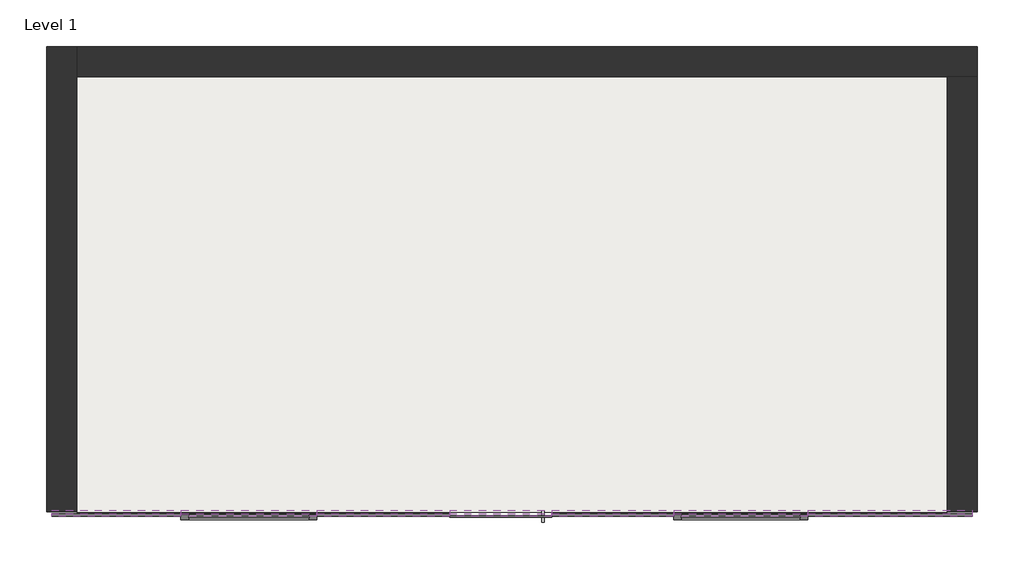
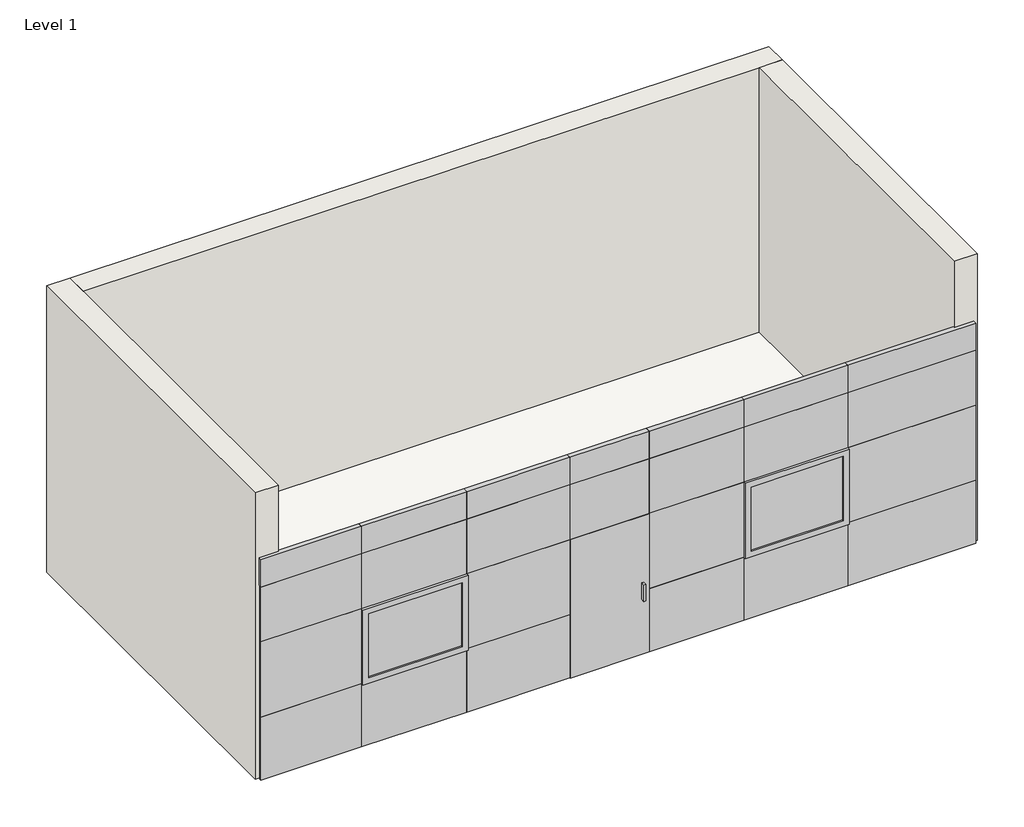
# One storey: 27 plates, 3 walls, 1 slab.
"""IFC4 building model written with IfcOpenShell, lengths in millimetres."""

from ifc_helpers import new_model, si_unit, origin, origin_with_axes, place, context, project, spatial, polyline, outline, extrude, faceted_brep, transform, mapped, element, save
from components import curtain_wall_awning_curtain_wall_awning_ca8f6931, curtain_wall_awning_curtain_wall_awning_aea928d2, curtain_wall_sgl_glass_curtain_wall_sgl_glass_4df18203, system_panel_glazed_8e20a8fe, system_panel_glazed_9b01451f, system_panel_glazed_a04ada38, system_panel_glazed_cc759a12, system_panel_glazed_27d978d9, system_panel_glazed_3545c3f7, system_panel_glazed_9c306b22, system_panel_glazed_d8fdeaf9, system_panel_glazed_aea009c8, system_panel_glazed_d42a5290, system_panel_glazed_7e2c67d3, system_panel_glazed_733af30a, system_panel_glazed_dff3f8f4, system_panel_glazed_28acfef6, system_panel_glazed_4fe77780, system_panel_glazed_9066613e, system_panel_glazed_ff7d22cf, system_panel_solid_cdb384bf, system_panel_solid_65ce7ea8, system_panel_solid_0d61ca61, system_panel_solid_387147e7, system_panel_solid_9766ab31, system_panel_solid_e8f29435, system_panel_solid_6e5f63c4

model = new_model("IFC4")

# Units and contexts
model_context = context("Model", 3, world=origin())
ifc_project = project(units=[si_unit("LENGTHUNIT", "METRE", prefix="MILLI")], contexts=[model_context])

# Site, building, storey
site = spatial("IfcSite", under=ifc_project)
building = spatial("IfcBuilding", under=site)
storey = spatial("IfcBuildingStorey", under=building, Name="Level 1", Elevation=0.0)

# Plates
placement = place(None, origin())
curtain_wall_awning_curtain_wall_awning_shape = curtain_wall_awning_curtain_wall_awning_ca8f6931(model_context)
element("IfcPlate", 1, ObjectType="Curtain Wall Awning : Curtain Wall Awning", at=placement, inside=storey, context=model_context, shape_type="MappedRepresentation", body=[
    mapped(curtain_wall_awning_curtain_wall_awning_shape, transform((-1103.2663854, 909.2024759, 871.864222), x_axis=(-1.0, 0.0, 0.0), y_axis=(0.0, -1.0, 0.0), z_axis=(0.0, 0.0, 1.0))),
])
curtain_wall_awning_curtain_wall_awning_2_shape = curtain_wall_awning_curtain_wall_awning_aea928d2(model_context)
element("IfcPlate", 2, ObjectType="Curtain Wall Awning : Curtain Wall Awning", at=placement, inside=storey, context=model_context, shape_type="MappedRepresentation", body=[
    mapped(curtain_wall_awning_curtain_wall_awning_2_shape, transform((3890.5380353, 909.2024759, 871.864222), x_axis=(-1.0, 0.0, 0.0), y_axis=(0.0, -1.0, 0.0), z_axis=(0.0, 0.0, 1.0))),
])
curtain_wall_sgl_glass_curtain_wall_sgl_glass_shape = curtain_wall_sgl_glass_curtain_wall_sgl_glass_4df18203(model_context)
element("IfcPlate", 3, ObjectType="Curtain Wall Sgl Glass : Curtain Wall Sgl Glass", at=placement, inside=storey, context=model_context, shape_type="MappedRepresentation", body=[
    mapped(curtain_wall_sgl_glass_curtain_wall_sgl_glass_shape, transform((1453.1320001, 909.2024759, 0.0), x_axis=(-1.0, 0.0, 0.0), y_axis=(0.0, -1.0, 0.0), z_axis=(0.0, 0.0, 1.0))),
])
system_panel_glazed_shape = system_panel_glazed_8e20a8fe(model_context)
element("IfcPlate", 4, ObjectType="System Panel : Glazed", at=placement, inside=storey, context=model_context, shape_type="MappedRepresentation", body=[
    mapped(system_panel_glazed_shape, transform((-2448.7996198, 909.2024759, 0.0), x_axis=(-1.0, 0.0, 0.0), y_axis=(0.0, -1.0, 0.0), z_axis=(0.0, 0.0, 1.0))),
])
system_panel_glazed_2_shape = system_panel_glazed_9b01451f(model_context)
element("IfcPlate", 5, ObjectType="System Panel : Glazed", at=placement, inside=storey, context=model_context, shape_type="MappedRepresentation", body=[
    mapped(system_panel_glazed_2_shape, transform((-2448.7996198, 909.2024759, 871.864222), x_axis=(-1.0, 0.0, 0.0), y_axis=(0.0, -1.0, 0.0), z_axis=(0.0, 0.0, 1.0))),
])
system_panel_glazed_3_shape = system_panel_glazed_a04ada38(model_context)
element("IfcPlate", 6, ObjectType="System Panel : Glazed", at=placement, inside=storey, context=model_context, shape_type="MappedRepresentation", body=[
    mapped(system_panel_glazed_3_shape, transform((-1103.2663854, 909.2024759, 0.0), x_axis=(-1.0, 0.0, 0.0), y_axis=(0.0, -1.0, 0.0), z_axis=(0.0, 0.0, 1.0))),
])
system_panel_glazed_4_shape = system_panel_glazed_cc759a12(model_context)
element("IfcPlate", 7, ObjectType="System Panel : Glazed", at=placement, inside=storey, context=model_context, shape_type="MappedRepresentation", body=[
    mapped(system_panel_glazed_4_shape, transform((259.7961218, 909.2024759, 0.0), x_axis=(-1.0, 0.0, 0.0), y_axis=(0.0, -1.0, 0.0), z_axis=(0.0, 0.0, 1.0))),
])
system_panel_glazed_5_shape = system_panel_glazed_27d978d9(model_context)
element("IfcPlate", 8, ObjectType="System Panel : Glazed", at=placement, inside=storey, context=model_context, shape_type="MappedRepresentation", body=[
    mapped(system_panel_glazed_5_shape, transform((259.7961218, 909.2024759, 871.864222), x_axis=(-1.0, 0.0, 0.0), y_axis=(0.0, -1.0, 0.0), z_axis=(0.0, 0.0, 1.0))),
])
system_panel_glazed_6_shape = system_panel_glazed_3545c3f7(model_context)
element("IfcPlate", 9, ObjectType="System Panel : Glazed", at=placement, inside=storey, context=model_context, shape_type="MappedRepresentation", body=[
    mapped(system_panel_glazed_6_shape, transform((5406.0384694, 909.2024759, 0.0), x_axis=(-1.0, 0.0, 0.0), y_axis=(0.0, -1.0, 0.0), z_axis=(0.0, 0.0, 1.0))),
])
system_panel_glazed_7_shape = system_panel_glazed_9c306b22(model_context)
element("IfcPlate", 10, ObjectType="System Panel : Glazed", at=placement, inside=storey, context=model_context, shape_type="MappedRepresentation", body=[
    mapped(system_panel_glazed_7_shape, transform((5406.0384694, 909.2024759, 871.864222), x_axis=(-1.0, 0.0, 0.0), y_axis=(0.0, -1.0, 0.0), z_axis=(0.0, 0.0, 1.0))),
])
system_panel_glazed_8_shape = system_panel_glazed_d8fdeaf9(model_context)
element("IfcPlate", 11, ObjectType="System Panel : Glazed", at=placement, inside=storey, context=model_context, shape_type="MappedRepresentation", body=[
    mapped(system_panel_glazed_8_shape, transform((5406.0384694, 909.2024759, 1910.5835323), x_axis=(-1.0, 0.0, 0.0), y_axis=(0.0, -1.0, 0.0), z_axis=(0.0, 0.0, 1.0))),
])
system_panel_glazed_9_shape = system_panel_glazed_aea009c8(model_context)
element("IfcPlate", 12, ObjectType="System Panel : Glazed", at=placement, inside=storey, context=model_context, shape_type="MappedRepresentation", body=[
    mapped(system_panel_glazed_9_shape, transform((-2448.7996198, 909.2024759, 1910.5835323), x_axis=(-1.0, 0.0, 0.0), y_axis=(0.0, -1.0, 0.0), z_axis=(0.0, 0.0, 1.0))),
])
system_panel_glazed_10_shape = system_panel_glazed_d42a5290(model_context)
element("IfcPlate", 13, ObjectType="System Panel : Glazed", at=placement, inside=storey, context=model_context, shape_type="MappedRepresentation", body=[
    mapped(system_panel_glazed_10_shape, transform((-1103.2663854, 909.2024759, 1910.5835323), x_axis=(-1.0, 0.0, 0.0), y_axis=(0.0, -1.0, 0.0), z_axis=(0.0, 0.0, 1.0))),
])
system_panel_glazed_11_shape = system_panel_glazed_7e2c67d3(model_context)
element("IfcPlate", 14, ObjectType="System Panel : Glazed", at=placement, inside=storey, context=model_context, shape_type="MappedRepresentation", body=[
    mapped(system_panel_glazed_11_shape, transform((259.7961218, 909.2024759, 1910.5835323), x_axis=(-1.0, 0.0, 0.0), y_axis=(0.0, -1.0, 0.0), z_axis=(0.0, 0.0, 1.0))),
])
system_panel_glazed_12_shape = system_panel_glazed_733af30a(model_context)
element("IfcPlate", 15, ObjectType="System Panel : Glazed", at=placement, inside=storey, context=model_context, shape_type="MappedRepresentation", body=[
    mapped(system_panel_glazed_12_shape, transform((1453.1320001, 909.2024759, 1910.5835323), x_axis=(-1.0, 0.0, 0.0), y_axis=(0.0, -1.0, 0.0), z_axis=(0.0, 0.0, 1.0))),
])
system_panel_glazed_13_shape = system_panel_glazed_dff3f8f4(model_context)
element("IfcPlate", 16, ObjectType="System Panel : Glazed", at=placement, inside=storey, context=model_context, shape_type="MappedRepresentation", body=[
    mapped(system_panel_glazed_13_shape, transform((2591.2245158, 909.2024759, 0.0), x_axis=(-1.0, 0.0, 0.0), y_axis=(0.0, -1.0, 0.0), z_axis=(0.0, 0.0, 1.0))),
])
system_panel_glazed_14_shape = system_panel_glazed_28acfef6(model_context)
element("IfcPlate", 17, ObjectType="System Panel : Glazed", at=placement, inside=storey, context=model_context, shape_type="MappedRepresentation", body=[
    mapped(system_panel_glazed_14_shape, transform((2591.2245158, 909.2024759, 871.864222), x_axis=(-1.0, 0.0, 0.0), y_axis=(0.0, -1.0, 0.0), z_axis=(0.0, 0.0, 1.0))),
])
system_panel_glazed_15_shape = system_panel_glazed_4fe77780(model_context)
element("IfcPlate", 18, ObjectType="System Panel : Glazed", at=placement, inside=storey, context=model_context, shape_type="MappedRepresentation", body=[
    mapped(system_panel_glazed_15_shape, transform((2591.2245158, 909.2024759, 1910.5835323), x_axis=(-1.0, 0.0, 0.0), y_axis=(0.0, -1.0, 0.0), z_axis=(0.0, 0.0, 1.0))),
])
system_panel_glazed_16_shape = system_panel_glazed_9066613e(model_context)
element("IfcPlate", 19, ObjectType="System Panel : Glazed", at=placement, inside=storey, context=model_context, shape_type="MappedRepresentation", body=[
    mapped(system_panel_glazed_16_shape, transform((3890.5380353, 909.2024759, 0.0), x_axis=(-1.0, 0.0, 0.0), y_axis=(0.0, -1.0, 0.0), z_axis=(0.0, 0.0, 1.0))),
])
system_panel_glazed_17_shape = system_panel_glazed_ff7d22cf(model_context)
element("IfcPlate", 20, ObjectType="System Panel : Glazed", at=placement, inside=storey, context=model_context, shape_type="MappedRepresentation", body=[
    mapped(system_panel_glazed_17_shape, transform((3890.5380353, 909.2024759, 1910.5835323), x_axis=(-1.0, 0.0, 0.0), y_axis=(0.0, -1.0, 0.0), z_axis=(0.0, 0.0, 1.0))),
])
system_panel_solid_shape = system_panel_solid_cdb384bf(model_context)
element("IfcPlate", 21, ObjectType="System Panel : Solid", at=placement, inside=storey, context=model_context, shape_type="MappedRepresentation", body=[
    mapped(system_panel_solid_shape, transform((1453.1320001, 909.2024759, 2668.8611774), x_axis=(-1.0, 0.0, 0.0), y_axis=(0.0, -1.0, 0.0), z_axis=(0.0, 0.0, 1.0))),
])
system_panel_solid_2_shape = system_panel_solid_65ce7ea8(model_context)
element("IfcPlate", 22, ObjectType="System Panel : Solid", at=placement, inside=storey, context=model_context, shape_type="MappedRepresentation", body=[
    mapped(system_panel_solid_2_shape, transform((259.7961218, 909.2024759, 2668.8611774), x_axis=(-1.0, 0.0, 0.0), y_axis=(0.0, -1.0, 0.0), z_axis=(0.0, 0.0, 1.0))),
])
system_panel_solid_3_shape = system_panel_solid_0d61ca61(model_context)
element("IfcPlate", 23, ObjectType="System Panel : Solid", at=placement, inside=storey, context=model_context, shape_type="MappedRepresentation", body=[
    mapped(system_panel_solid_3_shape, transform((-1103.2663854, 909.2024759, 2668.8611774), x_axis=(-1.0, 0.0, 0.0), y_axis=(0.0, -1.0, 0.0), z_axis=(0.0, 0.0, 1.0))),
])
system_panel_solid_4_shape = system_panel_solid_387147e7(model_context)
element("IfcPlate", 24, ObjectType="System Panel : Solid", at=placement, inside=storey, context=model_context, shape_type="MappedRepresentation", body=[
    mapped(system_panel_solid_4_shape, transform((-2448.7996198, 909.2024759, 2668.8611774), x_axis=(-1.0, 0.0, 0.0), y_axis=(0.0, -1.0, 0.0), z_axis=(0.0, 0.0, 1.0))),
])
system_panel_solid_5_shape = system_panel_solid_9766ab31(model_context)
element("IfcPlate", 25, ObjectType="System Panel : Solid", at=placement, inside=storey, context=model_context, shape_type="MappedRepresentation", body=[
    mapped(system_panel_solid_5_shape, transform((5406.0384694, 909.2024759, 2668.8611774), x_axis=(-1.0, 0.0, 0.0), y_axis=(0.0, -1.0, 0.0), z_axis=(0.0, 0.0, 1.0))),
])
system_panel_solid_6_shape = system_panel_solid_e8f29435(model_context)
element("IfcPlate", 26, ObjectType="System Panel : Solid", at=placement, inside=storey, context=model_context, shape_type="MappedRepresentation", body=[
    mapped(system_panel_solid_6_shape, transform((3890.5380353, 909.2024759, 2668.8611774), x_axis=(-1.0, 0.0, 0.0), y_axis=(0.0, -1.0, 0.0), z_axis=(0.0, 0.0, 1.0))),
])
system_panel_solid_7_shape = system_panel_solid_6e5f63c4(model_context)
element("IfcPlate", 27, ObjectType="System Panel : Solid", at=placement, inside=storey, context=model_context, shape_type="MappedRepresentation", body=[
    mapped(system_panel_solid_7_shape, transform((2591.2245158, 909.2024759, 2668.8611774), x_axis=(-1.0, 0.0, 0.0), y_axis=(0.0, -1.0, 0.0), z_axis=(0.0, 0.0, 1.0))),
])

# Slab
element("IfcSlab", 28, ObjectType="Generic - 12\"", at=placement, inside=storey, context=model_context, shape_type="SweptSolid", body=[
    extrude(outline(polyline([(5987.4558373, 909.2024759), (-2851.7441627, 909.2024759), (-2851.7441627, 5328.8024759), (5987.4558373, 5328.8024759), (5987.4558373, 909.2024759)])), origin_with_axes(), (0.0, 0.0, 1.0), 304.8),
])

# Walls
element("IfcWall", 29, ObjectType="Generic - 12\"", at=placement, inside=storey, context=model_context, shape_type="Brep", body=[
    faceted_brep([(-2851.7441627, 909.2024759, 0.0), (-2851.7441627, 5328.8024759, 0.0), (-2851.7441627, 5633.6024759, 0.0), (-2851.7441627, 5633.6024759, 3962.4), (-2851.7441627, 5328.8024759, 3962.4), (-2851.7441627, 909.2024759, 3962.4), (-3156.5441627, 909.2024759, 0.0), (-3156.5441627, 909.2024759, 3962.4), (-3156.5441627, 5633.6024759, 3962.4), (-3156.5441627, 5633.6024759, 0.0)], [[[0, 1, 2, 3, 4, 5]], [[6, 7, 8, 9]], [[2, 1, 0, 6, 9]], [[5, 4, 3, 8, 7]], [[0, 5, 7, 6]], [[3, 2, 9, 8]]]),
])
element("IfcWall", 30, ObjectType="Generic - 12\"", at=placement, inside=storey, context=model_context, shape_type="Brep", body=[
    faceted_brep([(-2851.7441627, 5328.8024759, 0.0), (5987.4558373, 5328.8024759, 0.0), (6292.2558373, 5328.8024759, 0.0), (6292.2558373, 5328.8024759, 3962.4), (5987.4558373, 5328.8024759, 3962.4), (-2851.7441627, 5328.8024759, 3962.4), (-2851.7441627, 5633.6024759, 0.0), (-2851.7441627, 5633.6024759, 3962.4), (6292.2558373, 5633.6024759, 3962.4), (6292.2558373, 5633.6024759, 0.0)], [[[0, 1, 2, 3, 4, 5]], [[6, 7, 8, 9]], [[2, 1, 0, 6, 9]], [[5, 4, 3, 8, 7]], [[3, 2, 9, 8]], [[0, 5, 7, 6]]]),
])
element("IfcWall", 31, ObjectType="Generic - 12\"", at=placement, inside=storey, context=model_context, shape_type="SweptSolid", body=[
    extrude(outline(polyline([(5987.4558373, 909.2024759), (5987.4558373, 5328.8024759), (6292.2558373, 5328.8024759), (6292.2558373, 909.2024759), (5987.4558373, 909.2024759)])), origin_with_axes(), (0.0, 0.0, 1.0), 3962.4),
])

save(model, "model.ifc")
